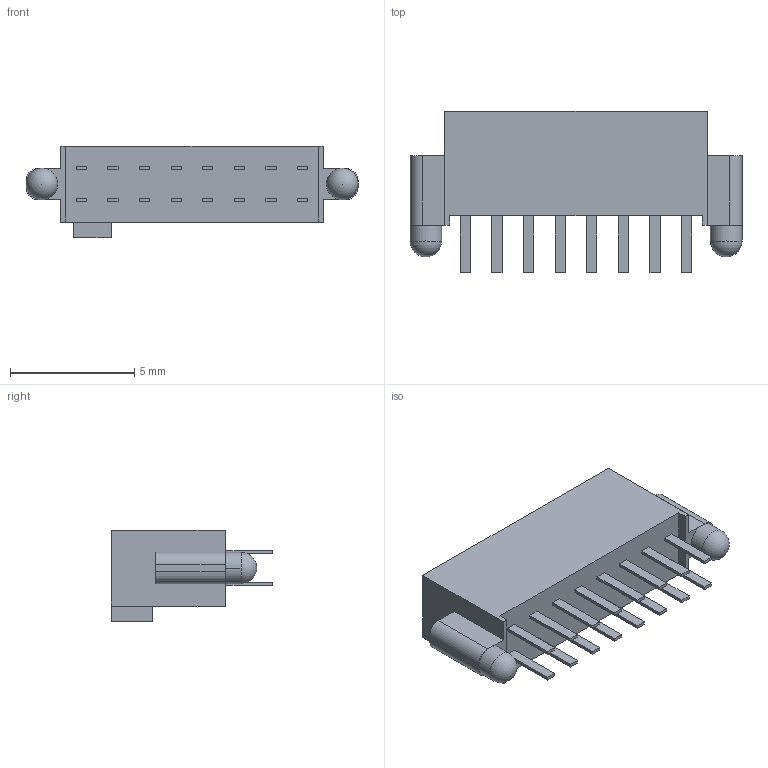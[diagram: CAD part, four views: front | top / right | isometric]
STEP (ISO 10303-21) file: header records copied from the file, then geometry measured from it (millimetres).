
FILE_DESCRIPTION (( 'STEP AP214' ), '1' );
FILE_NAME ('SFM-108-03-L-D-A.STEP', '2024-08-25T05:27:01', ( '' ), ( '' ), 'SwSTEP 2.0', 'SolidWorks 2023', '' );
FILE_SCHEMA (( 'AUTOMOTIVE_DESIGN' ));
Length unit declared in the file: millimetre
Products named in the file (1): SFM-108-03-L-D-A
Bounding box: 13.34 x 6.48 x 3.68 mm (x, y, z)
Volume: 141.1 mm3; surface area: 330.6 mm2
Topology: 1 solids, 1 shells, 308 faces, 706 edges, 446 vertices
Faces by surface type: plane 266, cylinder 40, sphere 2
Entity records: 11865 total; most frequent: CARTESIAN_POINT 1455, ORIENTED_EDGE 1404, DIRECTION 1404, EDGE_CURVE 702, LINE 618, VECTOR 618, VERTEX_POINT 444, AXIS2_PLACEMENT_3D 393
